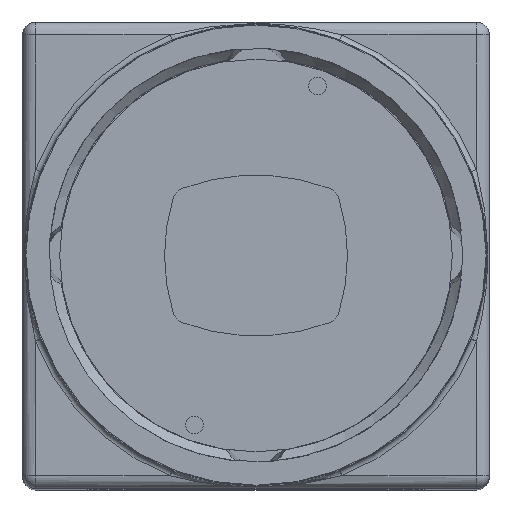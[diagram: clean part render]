
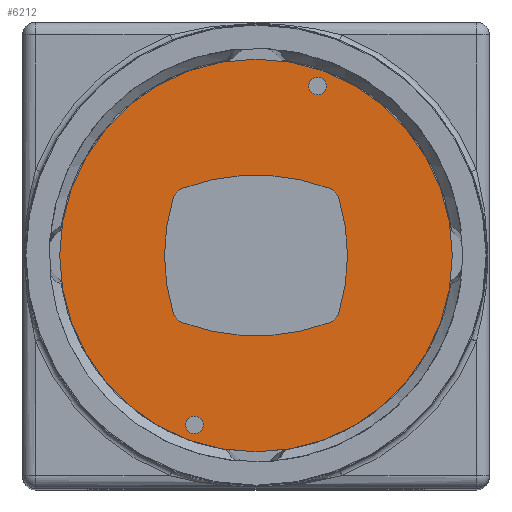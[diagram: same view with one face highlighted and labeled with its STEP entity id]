
A CAD part, top view. The second image highlights one B-rep face of the part: STEP entity #6212.
In plain terms, the highlighted planar face has unit normal (0, 0, 1).
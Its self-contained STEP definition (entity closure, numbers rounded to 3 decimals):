
#6212 = ADVANCED_FACE( '', ( #13170, #13171, #13172, #13173 ), #13174, .F. );
#13170 = FACE_BOUND( '', #22661, .T. );
#13171 = FACE_BOUND( '', #22662, .T. );
#13172 = FACE_BOUND( '', #22663, .T. );
#13173 = FACE_OUTER_BOUND( '', #22664, .T. );
#13174 = PLANE( '', #22665 );
#22661 = EDGE_LOOP( '', ( #41061 ) );
#22662 = EDGE_LOOP( '', ( #41062 ) );
#22663 = EDGE_LOOP( '', ( #41063, #41064, #41065, #41066, #41067, #41068, #41069, #41070 ) );
#22664 = EDGE_LOOP( '', ( #41071 ) );
#22665 = AXIS2_PLACEMENT_3D( '', #41072, #41073, #41074 );
#41061 = ORIENTED_EDGE( '', *, *, #47004, .T. );
#41062 = ORIENTED_EDGE( '', *, *, #45422, .T. );
#41063 = ORIENTED_EDGE( '', *, *, #47696, .T. );
#41064 = ORIENTED_EDGE( '', *, *, #49519, .T. );
#41065 = ORIENTED_EDGE( '', *, *, #50935, .T. );
#41066 = ORIENTED_EDGE( '', *, *, #43630, .T. );
#41067 = ORIENTED_EDGE( '', *, *, #45793, .T. );
#41068 = ORIENTED_EDGE( '', *, *, #48612, .T. );
#41069 = ORIENTED_EDGE( '', *, *, #47244, .T. );
#41070 = ORIENTED_EDGE( '', *, *, #49551, .T. );
#41071 = ORIENTED_EDGE( '', *, *, #49244, .F. );
#41072 = CARTESIAN_POINT( '', ( 1.907, 5.239, 5.8 ) );
#41073 = DIRECTION( '', ( 0., 0., -1. ) );
#41074 = DIRECTION( '', ( -1., 0., 0. ) );
#43630 = EDGE_CURVE( '', #51389, #51390, #51391, .T. );
#45422 = EDGE_CURVE( '', #54548, #54548, #54549, .T. );
#45793 = EDGE_CURVE( '', #51390, #55153, #55154, .T. );
#47004 = EDGE_CURVE( '', #57058, #57058, #57059, .T. );
#47244 = EDGE_CURVE( '', #57405, #57406, #57407, .T. );
#47696 = EDGE_CURVE( '', #58084, #58082, #58085, .T. );
#48612 = EDGE_CURVE( '', #55153, #57405, #59399, .T. );
#49244 = EDGE_CURVE( '', #60253, #60253, #60254, .T. );
#49519 = EDGE_CURVE( '', #58082, #60605, #60606, .T. );
#49551 = EDGE_CURVE( '', #57406, #58084, #60647, .T. );
#50935 = EDGE_CURVE( '', #60605, #51389, #62309, .T. );
#51389 = VERTEX_POINT( '', #62810 );
#51390 = VERTEX_POINT( '', #62811 );
#51391 = CIRCLE( '', #62812, 1. );
#54548 = VERTEX_POINT( '', #67750 );
#54549 = CIRCLE( '', #67751, 0.55 );
#55153 = VERTEX_POINT( '', #68649 );
#55154 = CIRCLE( '', #68650, 12. );
#57058 = VERTEX_POINT( '', #71712 );
#57059 = CIRCLE( '', #71713, 0.55 );
#57405 = VERTEX_POINT( '', #72215 );
#57406 = VERTEX_POINT( '', #72216 );
#57407 = CIRCLE( '', #72217, 13. );
#58082 = VERTEX_POINT( '', #73306 );
#58084 = VERTEX_POINT( '', #73309 );
#58085 = CIRCLE( '', #73310, 12. );
#59399 = CIRCLE( '', #75226, 1. );
#60253 = VERTEX_POINT( '', #76583 );
#60254 = CIRCLE( '', #76584, 12.2 );
#60605 = VERTEX_POINT( '', #77069 );
#60606 = CIRCLE( '', #77070, 1. );
#60647 = CIRCLE( '', #77145, 1. );
#62309 = CIRCLE( '', #79611, 13. );
#62810 = CARTESIAN_POINT( '', ( -4.548, -4.179, 5.8 ) );
#62811 = CARTESIAN_POINT( '', ( -5.153, -3.537, 5.8 ) );
#62812 = AXIS2_PLACEMENT_3D( '', #80166, #80167, #80168 );
#67750 = CARTESIAN_POINT( '', ( 3.831, 9.975, 5.8 ) );
#67751 = AXIS2_PLACEMENT_3D( '', #82335, #82336, #82337 );
#68649 = CARTESIAN_POINT( '', ( -5.153, 3.537, 5.8 ) );
#68650 = AXIS2_PLACEMENT_3D( '', #82759, #82760, #82761 );
#71712 = CARTESIAN_POINT( '', ( -3.831, -11.075, 5.8 ) );
#71713 = AXIS2_PLACEMENT_3D( '', #84208, #84209, #84210 );
#72215 = CARTESIAN_POINT( '', ( -4.548, 4.179, 5.8 ) );
#72216 = CARTESIAN_POINT( '', ( 4.548, 4.179, 5.8 ) );
#72217 = AXIS2_PLACEMENT_3D( '', #84488, #84489, #84490 );
#73306 = CARTESIAN_POINT( '', ( 5.153, -3.537, 5.8 ) );
#73309 = CARTESIAN_POINT( '', ( 5.153, 3.537, 5.8 ) );
#73310 = AXIS2_PLACEMENT_3D( '', #85030, #85031, #85032 );
#75226 = AXIS2_PLACEMENT_3D( '', #86080, #86081, #86082 );
#76583 = CARTESIAN_POINT( '', ( -12.2, 0., 5.8 ) );
#76584 = AXIS2_PLACEMENT_3D( '', #86777, #86778, #86779 );
#77069 = CARTESIAN_POINT( '', ( 4.548, -4.179, 5.8 ) );
#77070 = AXIS2_PLACEMENT_3D( '', #87085, #87086, #87087 );
#77145 = AXIS2_PLACEMENT_3D( '', #87110, #87111, #87112 );
#79611 = AXIS2_PLACEMENT_3D( '', #88294, #88295, #88296 );
#80166 = CARTESIAN_POINT( '', ( -4.198, -3.242, 5.8 ) );
#80167 = DIRECTION( '', ( 0., 0., -1. ) );
#80168 = DIRECTION( '', ( -1., 0., 0. ) );
#82335 = CARTESIAN_POINT( '', ( 3.831, 10.525, 5.8 ) );
#82336 = DIRECTION( '', ( 0., 0., -1. ) );
#82337 = DIRECTION( '', ( 0., -1., 0. ) );
#82759 = CARTESIAN_POINT( '', ( 6.314, 0., 5.8 ) );
#82760 = DIRECTION( '', ( 0., 0., -1. ) );
#82761 = DIRECTION( '', ( 1., 0., 0. ) );
#84208 = CARTESIAN_POINT( '', ( -3.831, -10.525, 5.8 ) );
#84209 = DIRECTION( '', ( 0., 0., -1. ) );
#84210 = DIRECTION( '', ( 0., -1., 0. ) );
#84488 = CARTESIAN_POINT( '', ( 0., -8., 5.8 ) );
#84489 = DIRECTION( '', ( 0., 0., -1. ) );
#84490 = DIRECTION( '', ( 1., 0., 0. ) );
#85030 = CARTESIAN_POINT( '', ( -6.314, 0., 5.8 ) );
#85031 = DIRECTION( '', ( 0., 0., -1. ) );
#85032 = DIRECTION( '', ( -1., 0., 0. ) );
#86080 = CARTESIAN_POINT( '', ( -4.198, 3.242, 5.8 ) );
#86081 = DIRECTION( '', ( 0., 0., -1. ) );
#86082 = DIRECTION( '', ( -1., 0., 0. ) );
#86777 = CARTESIAN_POINT( '', ( 0., 0., 5.8 ) );
#86778 = DIRECTION( '', ( 0., 0., -1. ) );
#86779 = DIRECTION( '', ( -1., 0., 0. ) );
#87085 = CARTESIAN_POINT( '', ( 4.198, -3.242, 5.8 ) );
#87086 = DIRECTION( '', ( 0., 0., -1. ) );
#87087 = DIRECTION( '', ( -1., 0., 0. ) );
#87110 = CARTESIAN_POINT( '', ( 4.198, 3.242, 5.8 ) );
#87111 = DIRECTION( '', ( 0., 0., -1. ) );
#87112 = DIRECTION( '', ( -1., 0., 0. ) );
#88294 = CARTESIAN_POINT( '', ( 0., 8., 5.8 ) );
#88295 = DIRECTION( '', ( 0., 0., -1. ) );
#88296 = DIRECTION( '', ( 1., 0., 0. ) );
